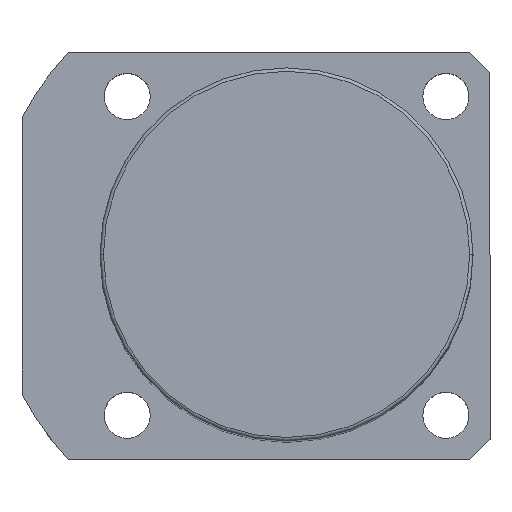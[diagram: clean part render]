
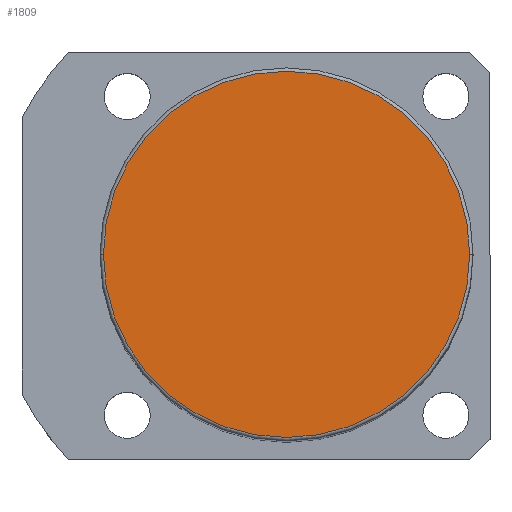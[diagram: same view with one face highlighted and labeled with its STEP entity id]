
A CAD part, top view. The second image highlights one B-rep face of the part: STEP entity #1809.
In plain terms, the highlighted planar face has unit normal (0, 0, 1).
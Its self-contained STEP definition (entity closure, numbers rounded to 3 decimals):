
#34 = CARTESIAN_POINT ( 'NONE',  ( 0., 0., 136. ) ) ;
#269 = EDGE_LOOP ( 'NONE', ( #1627, #1380 ) ) ;
#387 = CARTESIAN_POINT ( 'NONE',  ( 0., 0., 136. ) ) ;
#456 = AXIS2_PLACEMENT_3D ( 'NONE', #1309, #667, #721 ) ;
#667 = DIRECTION ( 'NONE',  ( 0., 0., 1. ) ) ;
#721 = DIRECTION ( 'NONE',  ( 1., 0., 0. ) ) ;
#863 = EDGE_CURVE ( 'NONE', #1662, #1208, #1433, .T. ) ;
#930 = CARTESIAN_POINT ( 'NONE',  ( 27., 0., 136. ) ) ;
#1109 = EDGE_CURVE ( 'NONE', #1208, #1662, #1945, .T. ) ;
#1198 = DIRECTION ( 'NONE',  ( 0., 0., 1. ) ) ;
#1208 = VERTEX_POINT ( 'NONE', #930 ) ;
#1215 = DIRECTION ( 'NONE',  ( 1., 0., 0. ) ) ;
#1309 = CARTESIAN_POINT ( 'NONE',  ( 0., 0., 136. ) ) ;
#1354 = DIRECTION ( 'NONE',  ( 1., 0., 0. ) ) ;
#1380 = ORIENTED_EDGE ( 'NONE', *, *, #863, .T. ) ;
#1396 = AXIS2_PLACEMENT_3D ( 'NONE', #34, #1198, #1354 ) ;
#1433 = CIRCLE ( 'NONE', #456, 27. ) ;
#1434 = AXIS2_PLACEMENT_3D ( 'NONE', #387, #2042, #1215 ) ;
#1627 = ORIENTED_EDGE ( 'NONE', *, *, #1109, .T. ) ;
#1629 = CARTESIAN_POINT ( 'NONE',  ( -27., 0., 136. ) ) ;
#1662 = VERTEX_POINT ( 'NONE', #1629 ) ;
#1672 = FACE_OUTER_BOUND ( 'NONE', #269, .T. ) ;
#1684 = PLANE ( 'NONE',  #1396 ) ;
#1809 = ADVANCED_FACE ( 'NONE', ( #1672 ), #1684, .T. ) ;
#1945 = CIRCLE ( 'NONE', #1434, 27. ) ;
#2042 = DIRECTION ( 'NONE',  ( 0., 0., 1. ) ) ;
